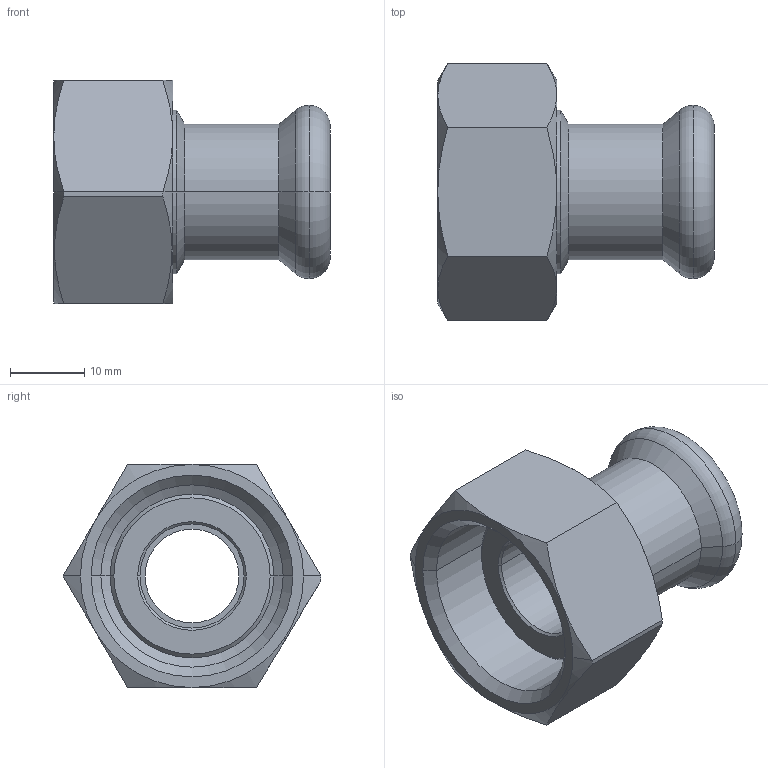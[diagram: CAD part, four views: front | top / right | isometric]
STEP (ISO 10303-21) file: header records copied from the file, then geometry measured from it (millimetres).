
FILE_DESCRIPTION(('CoCreate Modeling STEP Export'),'2;1');
FILE_NAME('C1446 15xG3-4.stp','2014-11-12T16:47:44',(''),(''),'CoCreate Modeling STEP processor for AP214 (Solid Model)','CoCreate Modeling 17.00A 17-Jun-2010 (C) Parametric Technology GmbH','');
FILE_SCHEMA(('AUTOMOTIVE_DESIGN { 1 0 10303 214 1 1 1 1 }'));
Length unit declared in the file: millimetre
Products named in the file (2): C1446_15xG3-4nut
Assembly tree (1 placements, depth 2):
  C1446_15xG3-4nut
    C1446_15xG3-4nut
Bounding box: 37.16 x 34.64 x 30 mm (x, y, z)
Volume: 9322.2 mm3; surface area: 7504.3 mm2
Topology: 1 solids, 2 shells, 75 faces, 157 edges, 90 vertices
Faces by surface type: cone 30, cylinder 21, plane 14, torus 10
Entity records: 2512 total; most frequent: CARTESIAN_POINT 1148, ORIENTED_EDGE 314, DIRECTION 213, EDGE_CURVE 157, VERTEX_POINT 90, AXIS2_PLACEMENT_3D 83, EDGE_LOOP 83, FACE_OUTER_BOUND 75
